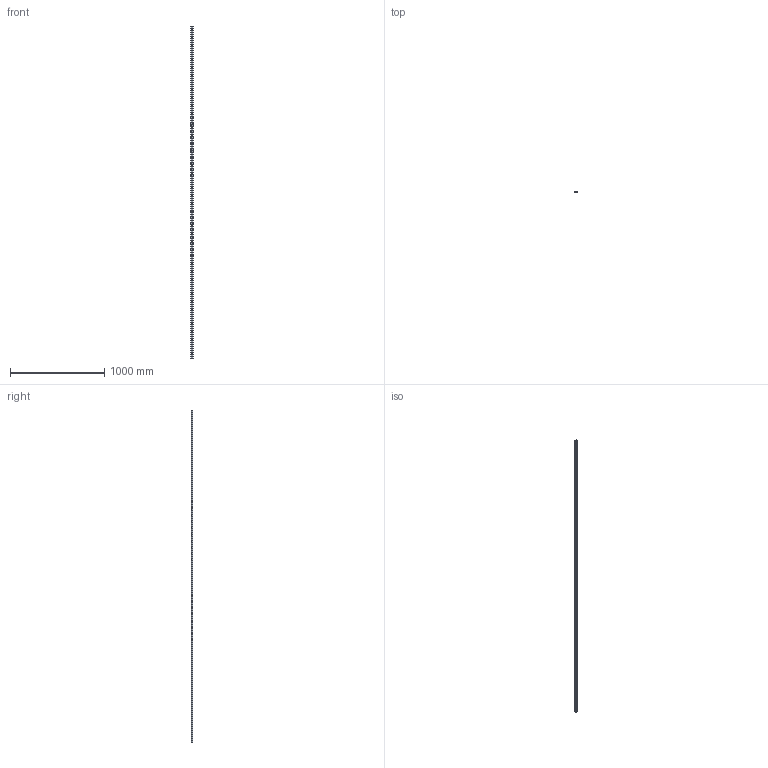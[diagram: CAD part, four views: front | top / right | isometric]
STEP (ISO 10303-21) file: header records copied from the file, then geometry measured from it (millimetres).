
FILE_DESCRIPTION(('STEP AP214'),'1');
FILE_NAME('rail_tex26-3520.stp','2019-03-08T08:29:45',('TraceParts'),('TraceParts S.A.'),'Spatial InterOp 3D',' ',' ');
FILE_SCHEMA(('automotive_design'));
Length unit declared in the file: millimetre
Products named in the file (1): rail_tex26-3520
Bounding box: 26.06 x 14 x 3520 mm (x, y, z)
Volume: 364416.3 mm3; surface area: 310253.2 mm2
Topology: 1 solids, 1 shells, 741 faces, 1920 edges, 1280 vertices
Faces by surface type: plane 520, bspline 121, cylinder 100
Entity records: 47053 total; most frequent: CARTESIAN_POINT 23379, ORIENTED_EDGE 3840, DIRECTION 3120, EDGE_CURVE 1920, LINE 1478, VECTOR 1478, VERTEX_POINT 1280, EDGE_LOOP 928
